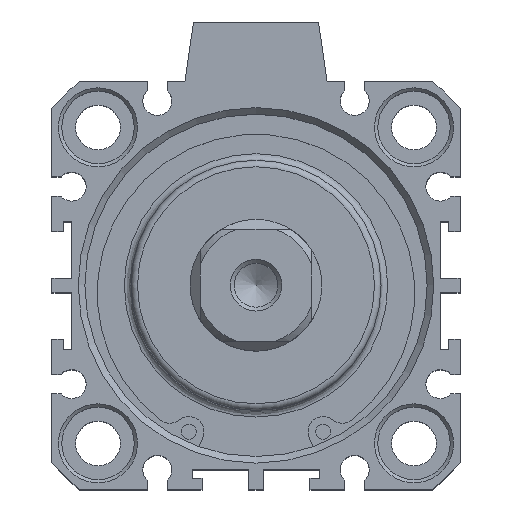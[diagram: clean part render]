
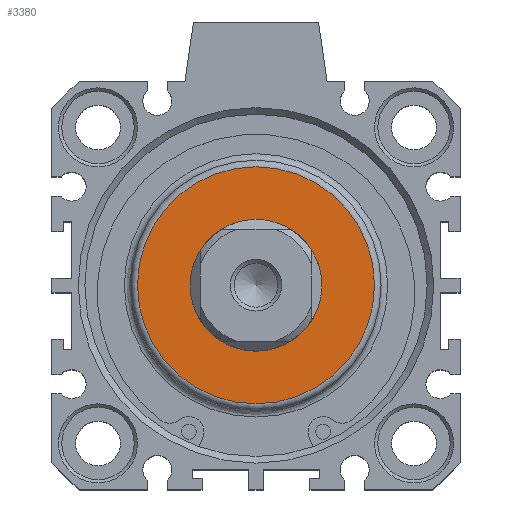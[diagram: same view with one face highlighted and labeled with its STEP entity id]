
A CAD part, top view. The second image highlights one B-rep face of the part: STEP entity #3380.
In plain terms, the highlighted planar face has unit normal (0, 0, 1).
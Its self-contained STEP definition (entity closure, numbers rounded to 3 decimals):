
#2900=CARTESIAN_POINT('',(-7.057,11.794,52.5));
#2901=VERTEX_POINT('',#2900);
#2902=CARTESIAN_POINT('',(-7.057,1.794,52.5));
#2903=DIRECTION('',(0.0,0.0,-1.0));
#2904=DIRECTION('',(0.0,1.0,0.0));
#2905=AXIS2_PLACEMENT_3D('',#2902,#2903,#2904);
#2906=CIRCLE('',#2905,10.0);
#2907=EDGE_CURVE('',#2901,#2901,#2906,.T.);
#3354=CARTESIAN_POINT('',(-7.057,19.794,52.5));
#3355=VERTEX_POINT('',#3354);
#3356=CARTESIAN_POINT('',(-7.057,1.794,52.5));
#3357=DIRECTION('',(0.0,0.0,-1.0));
#3358=DIRECTION('',(0.0,-1.0,0.0));
#3359=AXIS2_PLACEMENT_3D('',#3356,#3357,#3358);
#3360=CIRCLE('',#3359,18.0);
#3361=EDGE_CURVE('',#3355,#3355,#3360,.T.);
#3369=CARTESIAN_POINT('',(-7.057,11.294,52.5));
#3370=DIRECTION('',(0.0,0.0,1.0));
#3371=DIRECTION('',(1.0,0.0,0.0));
#3372=AXIS2_PLACEMENT_3D('',#3369,#3370,#3371);
#3373=PLANE('',#3372);
#3374=ORIENTED_EDGE('',*,*,#3361,.F.);
#3375=EDGE_LOOP('',(#3374));
#3376=FACE_OUTER_BOUND('',#3375,.T.);
#3377=ORIENTED_EDGE('',*,*,#2907,.T.);
#3378=EDGE_LOOP('',(#3377));
#3379=FACE_BOUND('',#3378,.T.);
#3380=ADVANCED_FACE('',(#3376,#3379),#3373,.T.);
